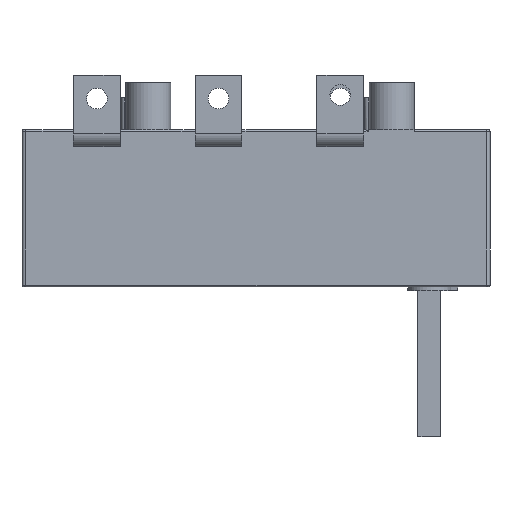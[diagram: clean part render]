
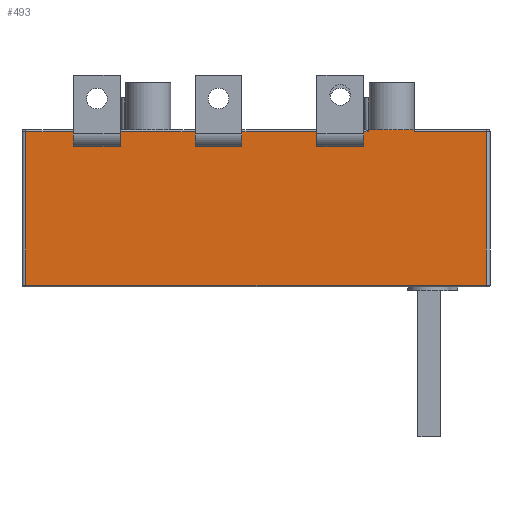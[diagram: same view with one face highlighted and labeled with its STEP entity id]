
A CAD part, front view. The second image highlights one B-rep face of the part: STEP entity #493.
In plain terms, the highlighted planar face has unit normal (0, -1, 0).
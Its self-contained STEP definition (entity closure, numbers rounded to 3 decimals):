
#493=ADVANCED_FACE('',(#825),#711,.T.);
#711=PLANE('',#3934);
#825=FACE_OUTER_BOUND('',#977,.T.);
#977=EDGE_LOOP('',(#1265,#1266,#1267,#1268,#1269,#1270,#1271,#1272,#1273,
#1274,#1275,#1276,#1277,#1278,#1279,#1280,#1281,#1282,#1283,#1284,#1285,
#1286,#1287,#1288,#1289,#1290,#1291,#1292));
#1265=ORIENTED_EDGE('',*,*,#2723,.F.);
#1266=ORIENTED_EDGE('',*,*,#2724,.F.);
#1267=ORIENTED_EDGE('',*,*,#2725,.F.);
#1268=ORIENTED_EDGE('',*,*,#2726,.T.);
#1269=ORIENTED_EDGE('',*,*,#2727,.T.);
#1270=ORIENTED_EDGE('',*,*,#2728,.F.);
#1271=ORIENTED_EDGE('',*,*,#2729,.T.);
#1272=ORIENTED_EDGE('',*,*,#2730,.T.);
#1273=ORIENTED_EDGE('',*,*,#2731,.T.);
#1274=ORIENTED_EDGE('',*,*,#2732,.T.);
#1275=ORIENTED_EDGE('',*,*,#2733,.F.);
#1276=ORIENTED_EDGE('',*,*,#2734,.F.);
#1277=ORIENTED_EDGE('',*,*,#2735,.T.);
#1278=ORIENTED_EDGE('',*,*,#2736,.T.);
#1279=ORIENTED_EDGE('',*,*,#2737,.T.);
#1280=ORIENTED_EDGE('',*,*,#2738,.F.);
#1281=ORIENTED_EDGE('',*,*,#2739,.T.);
#1282=ORIENTED_EDGE('',*,*,#2740,.F.);
#1283=ORIENTED_EDGE('',*,*,#2741,.T.);
#1284=ORIENTED_EDGE('',*,*,#2742,.T.);
#1285=ORIENTED_EDGE('',*,*,#2743,.T.);
#1286=ORIENTED_EDGE('',*,*,#2744,.F.);
#1287=ORIENTED_EDGE('',*,*,#2745,.F.);
#1288=ORIENTED_EDGE('',*,*,#2746,.F.);
#1289=ORIENTED_EDGE('',*,*,#2747,.F.);
#1290=ORIENTED_EDGE('',*,*,#2748,.T.);
#1291=ORIENTED_EDGE('',*,*,#2749,.T.);
#1292=ORIENTED_EDGE('',*,*,#2750,.F.);
#2353=VERTEX_POINT('',#5549);
#2354=VERTEX_POINT('',#5550);
#2355=VERTEX_POINT('',#5552);
#2356=VERTEX_POINT('',#5554);
#2357=VERTEX_POINT('',#5556);
#2358=VERTEX_POINT('',#5558);
#2359=VERTEX_POINT('',#5560);
#2360=VERTEX_POINT('',#5562);
#2361=VERTEX_POINT('',#5564);
#2362=VERTEX_POINT('',#5566);
#2363=VERTEX_POINT('',#5568);
#2364=VERTEX_POINT('',#5570);
#2365=VERTEX_POINT('',#5572);
#2366=VERTEX_POINT('',#5574);
#2367=VERTEX_POINT('',#5576);
#2368=VERTEX_POINT('',#5578);
#2369=VERTEX_POINT('',#5580);
#2370=VERTEX_POINT('',#5582);
#2371=VERTEX_POINT('',#5584);
#2372=VERTEX_POINT('',#5586);
#2373=VERTEX_POINT('',#5588);
#2374=VERTEX_POINT('',#5590);
#2375=VERTEX_POINT('',#5592);
#2376=VERTEX_POINT('',#5594);
#2377=VERTEX_POINT('',#5596);
#2378=VERTEX_POINT('',#5598);
#2379=VERTEX_POINT('',#5600);
#2380=VERTEX_POINT('',#5602);
#2723=EDGE_CURVE('',#2353,#2354,#3267,.T.);
#2724=EDGE_CURVE('',#2355,#2353,#3268,.T.);
#2725=EDGE_CURVE('',#2356,#2355,#3269,.T.);
#2726=EDGE_CURVE('',#2356,#2357,#3270,.T.);
#2727=EDGE_CURVE('',#2357,#2358,#3271,.T.);
#2728=EDGE_CURVE('',#2359,#2358,#3272,.T.);
#2729=EDGE_CURVE('',#2359,#2360,#3273,.T.);
#2730=EDGE_CURVE('',#2360,#2361,#3274,.T.);
#2731=EDGE_CURVE('',#2361,#2362,#3275,.T.);
#2732=EDGE_CURVE('',#2362,#2363,#3276,.T.);
#2733=EDGE_CURVE('',#2364,#2363,#3277,.T.);
#2734=EDGE_CURVE('',#2365,#2364,#3278,.T.);
#2735=EDGE_CURVE('',#2365,#2366,#3279,.T.);
#2736=EDGE_CURVE('',#2366,#2367,#3280,.T.);
#2737=EDGE_CURVE('',#2367,#2368,#3281,.T.);
#2738=EDGE_CURVE('',#2369,#2368,#3282,.T.);
#2739=EDGE_CURVE('',#2369,#2370,#3283,.T.);
#2740=EDGE_CURVE('',#2371,#2370,#3284,.T.);
#2741=EDGE_CURVE('',#2371,#2372,#3285,.T.);
#2742=EDGE_CURVE('',#2372,#2373,#3286,.T.);
#2743=EDGE_CURVE('',#2373,#2374,#3287,.T.);
#2744=EDGE_CURVE('',#2375,#2374,#3288,.T.);
#2745=EDGE_CURVE('',#2376,#2375,#3289,.T.);
#2746=EDGE_CURVE('',#2377,#2376,#3290,.T.);
#2747=EDGE_CURVE('',#2378,#2377,#3291,.T.);
#2748=EDGE_CURVE('',#2378,#2379,#3292,.T.);
#2749=EDGE_CURVE('',#2379,#2380,#3293,.T.);
#2750=EDGE_CURVE('',#2354,#2380,#3294,.T.);
#3267=LINE('',#5548,#3591);
#3268=LINE('',#5551,#3592);
#3269=LINE('',#5553,#3593);
#3270=LINE('',#5555,#3594);
#3271=LINE('',#5557,#3595);
#3272=LINE('',#5559,#3596);
#3273=LINE('',#5561,#3597);
#3274=LINE('',#5563,#3598);
#3275=LINE('',#5565,#3599);
#3276=LINE('',#5567,#3600);
#3277=LINE('',#5569,#3601);
#3278=LINE('',#5571,#3602);
#3279=LINE('',#5573,#3603);
#3280=LINE('',#5575,#3604);
#3281=LINE('',#5577,#3605);
#3282=LINE('',#5579,#3606);
#3283=LINE('',#5581,#3607);
#3284=LINE('',#5583,#3608);
#3285=LINE('',#5585,#3609);
#3286=LINE('',#5587,#3610);
#3287=LINE('',#5589,#3611);
#3288=LINE('',#5591,#3612);
#3289=LINE('',#5593,#3613);
#3290=LINE('',#5595,#3614);
#3291=LINE('',#5597,#3615);
#3292=LINE('',#5599,#3616);
#3293=LINE('',#5601,#3617);
#3294=LINE('',#5603,#3618);
#3591=VECTOR('',#4364,1.);
#3592=VECTOR('',#4365,1.);
#3593=VECTOR('',#4366,1.);
#3594=VECTOR('',#4367,1.);
#3595=VECTOR('',#4368,1.);
#3596=VECTOR('',#4369,1.);
#3597=VECTOR('',#4370,1.);
#3598=VECTOR('',#4371,1.);
#3599=VECTOR('',#4372,1.);
#3600=VECTOR('',#4373,1.);
#3601=VECTOR('',#4374,1.);
#3602=VECTOR('',#4375,1.);
#3603=VECTOR('',#4376,1.);
#3604=VECTOR('',#4377,1.);
#3605=VECTOR('',#4378,1.);
#3606=VECTOR('',#4379,1.);
#3607=VECTOR('',#4380,1.);
#3608=VECTOR('',#4381,1.);
#3609=VECTOR('',#4382,1.);
#3610=VECTOR('',#4383,1.);
#3611=VECTOR('',#4384,1.);
#3612=VECTOR('',#4385,1.);
#3613=VECTOR('',#4386,1.);
#3614=VECTOR('',#4387,1.);
#3615=VECTOR('',#4388,1.);
#3616=VECTOR('',#4389,1.);
#3617=VECTOR('',#4390,1.);
#3618=VECTOR('',#4391,1.);
#3934=AXIS2_PLACEMENT_3D('',#5604,#4392,#4393);
#4364=DIRECTION('',(0.,0.,1.));
#4365=DIRECTION('',(1.,0.,0.));
#4366=DIRECTION('',(0.,0.,-1.));
#4367=DIRECTION('',(0.,0.,1.));
#4368=DIRECTION('',(-1.,0.,0.));
#4369=DIRECTION('',(0.,0.,1.));
#4370=DIRECTION('',(1.,0.,0.));
#4371=DIRECTION('',(0.,0.,1.));
#4372=DIRECTION('',(-1.,0.,0.));
#4373=DIRECTION('',(0.,0.,1.));
#4374=DIRECTION('',(1.,0.,0.));
#4375=DIRECTION('',(0.,0.,-1.));
#4376=DIRECTION('',(-1.,0.,0.));
#4377=DIRECTION('',(0.,0.,-1.));
#4378=DIRECTION('',(-1.,0.,0.));
#4379=DIRECTION('',(0.,0.,1.));
#4380=DIRECTION('',(0.,0.,-1.));
#4381=DIRECTION('',(1.,0.,0.));
#4382=DIRECTION('',(0.,0.,1.));
#4383=DIRECTION('',(0.,0.,1.));
#4384=DIRECTION('',(-1.,0.,0.));
#4385=DIRECTION('',(0.,0.,1.));
#4386=DIRECTION('',(0.,0.,1.));
#4387=DIRECTION('',(1.,0.,0.));
#4388=DIRECTION('',(0.,0.,-1.));
#4389=DIRECTION('',(0.,0.,1.));
#4390=DIRECTION('',(-1.,0.,0.));
#4391=DIRECTION('',(0.,0.,1.));
#4392=DIRECTION('',(0.,-1.,0.));
#4393=DIRECTION('',(1.,0.,0.));
#5548=CARTESIAN_POINT('',(-145.,-52.5,4.));
#5549=CARTESIAN_POINT('',(-145.,-52.5,-9.098));
#5550=CARTESIAN_POINT('',(-145.,-52.5,-4.598));
#5551=CARTESIAN_POINT('',(-145.,-52.5,-9.098));
#5552=CARTESIAN_POINT('',(-170.,-52.5,-9.098));
#5553=CARTESIAN_POINT('',(-170.,-52.5,4.));
#5554=CARTESIAN_POINT('',(-170.,-52.5,-4.598));
#5555=CARTESIAN_POINT('',(-170.,-52.5,4.));
#5556=CARTESIAN_POINT('',(-170.,-52.5,-1.));
#5557=CARTESIAN_POINT('',(-195.5,-52.5,-1.));
#5558=CARTESIAN_POINT('',(-195.5,-52.5,-1.));
#5559=CARTESIAN_POINT('',(-195.5,-52.5,-84.));
#5560=CARTESIAN_POINT('',(-195.5,-52.5,-83.));
#5561=CARTESIAN_POINT('',(-12.,-52.5,-83.));
#5562=CARTESIAN_POINT('',(50.5,-52.5,-83.));
#5563=CARTESIAN_POINT('',(50.5,-52.5,-84.));
#5564=CARTESIAN_POINT('',(50.5,-52.5,-1.));
#5565=CARTESIAN_POINT('',(12.,-52.5,-1.));
#5566=CARTESIAN_POINT('',(12.,-52.5,-1.));
#5567=CARTESIAN_POINT('',(12.,-52.5,4.));
#5568=CARTESIAN_POINT('',(12.,-52.5,0.));
#5569=CARTESIAN_POINT('',(50.5,-52.5,0.));
#5570=CARTESIAN_POINT('',(-12.,-52.5,0.));
#5571=CARTESIAN_POINT('',(-12.,-52.5,25.));
#5572=CARTESIAN_POINT('',(-12.,-52.5,17.));
#5573=CARTESIAN_POINT('',(7.5,-52.5,17.));
#5574=CARTESIAN_POINT('',(-12.5,-52.5,17.));
#5575=CARTESIAN_POINT('',(-12.5,-52.5,4.));
#5576=CARTESIAN_POINT('',(-12.5,-52.5,-1.));
#5577=CARTESIAN_POINT('',(-195.5,-52.5,-1.));
#5578=CARTESIAN_POINT('',(-15.,-52.5,-1.));
#5579=CARTESIAN_POINT('',(-15.,-52.5,4.));
#5580=CARTESIAN_POINT('',(-15.,-52.5,-4.598));
#5581=CARTESIAN_POINT('',(-15.,-52.5,4.));
#5582=CARTESIAN_POINT('',(-15.,-52.5,-9.098));
#5583=CARTESIAN_POINT('',(-15.,-52.5,-9.098));
#5584=CARTESIAN_POINT('',(-40.,-52.5,-9.098));
#5585=CARTESIAN_POINT('',(-40.,-52.5,4.));
#5586=CARTESIAN_POINT('',(-40.,-52.5,-4.598));
#5587=CARTESIAN_POINT('',(-40.,-52.5,4.));
#5588=CARTESIAN_POINT('',(-40.,-52.5,-1.));
#5589=CARTESIAN_POINT('',(-195.5,-52.5,-1.));
#5590=CARTESIAN_POINT('',(-80.,-52.5,-1.));
#5591=CARTESIAN_POINT('',(-80.,-52.5,4.));
#5592=CARTESIAN_POINT('',(-80.,-52.5,-4.598));
#5593=CARTESIAN_POINT('',(-80.,-52.5,4.));
#5594=CARTESIAN_POINT('',(-80.,-52.5,-9.098));
#5595=CARTESIAN_POINT('',(-80.,-52.5,-9.098));
#5596=CARTESIAN_POINT('',(-105.,-52.5,-9.098));
#5597=CARTESIAN_POINT('',(-105.,-52.5,4.));
#5598=CARTESIAN_POINT('',(-105.,-52.5,-4.598));
#5599=CARTESIAN_POINT('',(-105.,-52.5,4.));
#5600=CARTESIAN_POINT('',(-105.,-52.5,-1.));
#5601=CARTESIAN_POINT('',(-195.5,-52.5,-1.));
#5602=CARTESIAN_POINT('',(-145.,-52.5,-1.));
#5603=CARTESIAN_POINT('',(-145.,-52.5,4.));
#5604=CARTESIAN_POINT('',(-12.,-52.5,4.));
